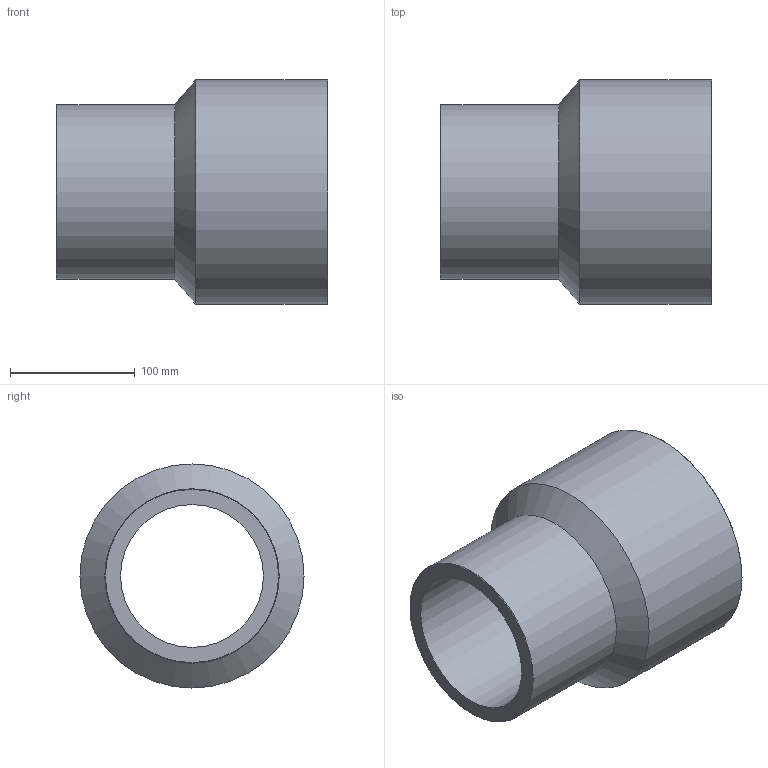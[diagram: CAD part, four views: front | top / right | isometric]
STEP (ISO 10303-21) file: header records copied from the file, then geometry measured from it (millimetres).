
FILE_DESCRIPTION(/* description */ ('Unknown'),/* implementation_level */ '2;1');
FILE_NAME(/* name */ 'RP180140C',/* time_stamp */ '2021-09-17T15:18:46+02:00',/* author */ ('Unknown'),/* organization */ ('Unknown'),/* preprocessor_version */ 'ST-DEVELOPER v16.7',/* originating_system */ 'Solid Edge',/* authorisation */ 'Unknown');
FILE_SCHEMA (('AUTOMOTIVE_DESIGN {1 0 10303 214 3 1 1}'));
Length unit declared in the file: millimetre
Products named in the file (1): RP180140C
Bounding box: 218 x 180 x 180 mm (x, y, z)
Volume: 1550367.4 mm3; surface area: 219718.7 mm2
Topology: 1 solids, 1 shells, 10 faces, 19 edges, 11 vertices
Faces by surface type: cylinder 4, cone 4, plane 2
Full cylindrical faces by diameter (mm): 114.6 x1, 140 x1, 147.2 x1, 180 x1
Entity records: 238 total; most frequent: DIRECTION 42, CARTESIAN_POINT 31, AXIS2_PLACEMENT_3D 21, ORIENTED_EDGE 20, EDGE_LOOP 20, FACE_BOUND 20, EDGE_CURVE 10, VERTEX_POINT 10
